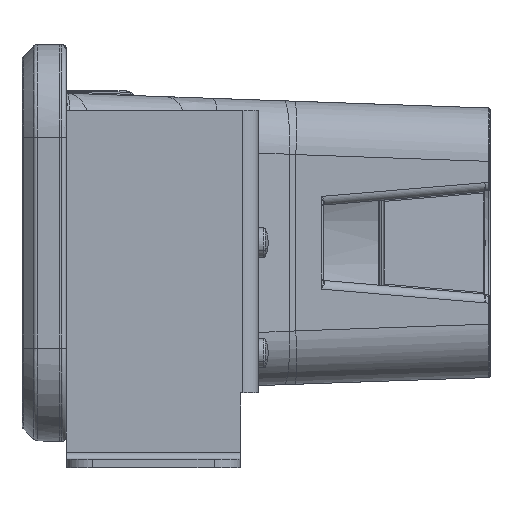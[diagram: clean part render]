
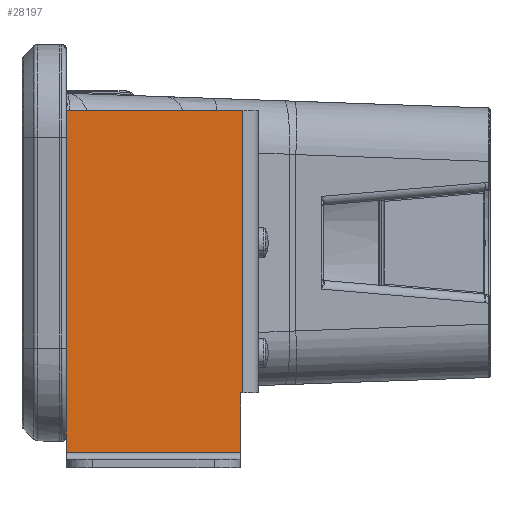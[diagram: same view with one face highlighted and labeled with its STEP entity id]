
A CAD part, left-side view. The second image highlights one B-rep face of the part: STEP entity #28197.
In plain terms, the highlighted planar face has unit normal (-1, 0, 0).
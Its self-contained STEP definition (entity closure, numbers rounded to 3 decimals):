
#381 = VERTEX_POINT ( 'NONE', #49243 ) ;
#973 = VERTEX_POINT ( 'NONE', #41033 ) ;
#1183 = CARTESIAN_POINT ( 'NONE',  ( -165.5, 81.5, -34. ) ) ;
#2542 = VECTOR ( 'NONE', #43124, 1000. ) ;
#4370 = LINE ( 'NONE', #41903, #22977 ) ;
#13177 = CARTESIAN_POINT ( 'NONE',  ( -165.5, 35.5, 30. ) ) ;
#14036 = ORIENTED_EDGE ( 'NONE', *, *, #32933, .T. ) ;
#14988 = ORIENTED_EDGE ( 'NONE', *, *, #52074, .T. ) ;
#15134 = VECTOR ( 'NONE', #30417, 1000. ) ;
#17216 = EDGE_CURVE ( 'NONE', #19721, #58067, #48344, .T. ) ;
#19651 = CARTESIAN_POINT ( 'NONE',  ( -165.5, 75., -47.5 ) ) ;
#19721 = VERTEX_POINT ( 'NONE', #35751 ) ;
#20634 = CARTESIAN_POINT ( 'NONE',  ( -165.5, 75., 30. ) ) ;
#21942 = CARTESIAN_POINT ( 'NONE',  ( -165.5, 75., -30. ) ) ;
#22977 = VECTOR ( 'NONE', #57186, 1000. ) ;
#24499 = CARTESIAN_POINT ( 'NONE',  ( -165.5, 35., -34. ) ) ;
#25168 = FACE_OUTER_BOUND ( 'NONE', #44345, .T. ) ;
#27750 = VECTOR ( 'NONE', #62613, 1000. ) ;
#28197 = ADVANCED_FACE ( 'NONE', ( #25168 ), #36633, .F. ) ;
#28760 = DIRECTION ( 'NONE',  ( 0., 1., 0. ) ) ;
#28826 = DIRECTION ( 'NONE',  ( 0., 0., -1. ) ) ;
#29525 = EDGE_CURVE ( 'NONE', #55414, #381, #40632, .T. ) ;
#29982 = VECTOR ( 'NONE', #28826, 1000. ) ;
#30417 = DIRECTION ( 'NONE',  ( 0., 0., 1. ) ) ;
#32258 = VERTEX_POINT ( 'NONE', #20634 ) ;
#32710 = VECTOR ( 'NONE', #59873, 1000. ) ;
#32933 = EDGE_CURVE ( 'NONE', #973, #36653, #50576, .T. ) ;
#33986 = LINE ( 'NONE', #66955, #63053 ) ;
#35093 = EDGE_CURVE ( 'NONE', #36653, #32258, #33986, .T. ) ;
#35751 = CARTESIAN_POINT ( 'NONE',  ( -165.5, 75., -39.377 ) ) ;
#36633 = PLANE ( 'NONE',  #55581 ) ;
#36653 = VERTEX_POINT ( 'NONE', #66053 ) ;
#40632 = LINE ( 'NONE', #13177, #29982 ) ;
#40743 = LINE ( 'NONE', #56717, #27750 ) ;
#41033 = CARTESIAN_POINT ( 'NONE',  ( -165.5, 35., -34. ) ) ;
#41903 = CARTESIAN_POINT ( 'NONE',  ( -165.5, 75., 43.991 ) ) ;
#43124 = DIRECTION ( 'NONE',  ( 0., 0., -1. ) ) ;
#44345 = EDGE_LOOP ( 'NONE', ( #65195, #55740, #47959, #14988, #56696, #56005, #14036 ) ) ;
#46370 = DIRECTION ( 'NONE',  ( 0., -1., 0. ) ) ;
#47959 = ORIENTED_EDGE ( 'NONE', *, *, #17216, .T. ) ;
#48344 = LINE ( 'NONE', #21942, #2542 ) ;
#49243 = CARTESIAN_POINT ( 'NONE',  ( -165.5, 35.5, -47.5 ) ) ;
#49814 = CARTESIAN_POINT ( 'NONE',  ( -165.5, 35.5, -34. ) ) ;
#50576 = LINE ( 'NONE', #24499, #15134 ) ;
#50888 = DIRECTION ( 'NONE',  ( 1., 0., 0. ) ) ;
#51243 = CARTESIAN_POINT ( 'NONE',  ( -165.5, 81.5, 30. ) ) ;
#52074 = EDGE_CURVE ( 'NONE', #58067, #381, #40743, .T. ) ;
#55024 = LINE ( 'NONE', #1183, #32710 ) ;
#55414 = VERTEX_POINT ( 'NONE', #49814 ) ;
#55581 = AXIS2_PLACEMENT_3D ( 'NONE', #51243, #50888, #46370 ) ;
#55740 = ORIENTED_EDGE ( 'NONE', *, *, #64581, .T. ) ;
#56005 = ORIENTED_EDGE ( 'NONE', *, *, #59484, .T. ) ;
#56696 = ORIENTED_EDGE ( 'NONE', *, *, #29525, .F. ) ;
#56717 = CARTESIAN_POINT ( 'NONE',  ( -165.5, 75., -47.5 ) ) ;
#57186 = DIRECTION ( 'NONE',  ( 0., 0., -1. ) ) ;
#58067 = VERTEX_POINT ( 'NONE', #19651 ) ;
#59484 = EDGE_CURVE ( 'NONE', #55414, #973, #55024, .T. ) ;
#59873 = DIRECTION ( 'NONE',  ( 0., -1., 0. ) ) ;
#62613 = DIRECTION ( 'NONE',  ( 0., -1., 0. ) ) ;
#63053 = VECTOR ( 'NONE', #28760, 1000. ) ;
#64581 = EDGE_CURVE ( 'NONE', #32258, #19721, #4370, .T. ) ;
#65195 = ORIENTED_EDGE ( 'NONE', *, *, #35093, .T. ) ;
#66053 = CARTESIAN_POINT ( 'NONE',  ( -165.5, 35., 30. ) ) ;
#66955 = CARTESIAN_POINT ( 'NONE',  ( -165.5, 81.5, 30. ) ) ;
